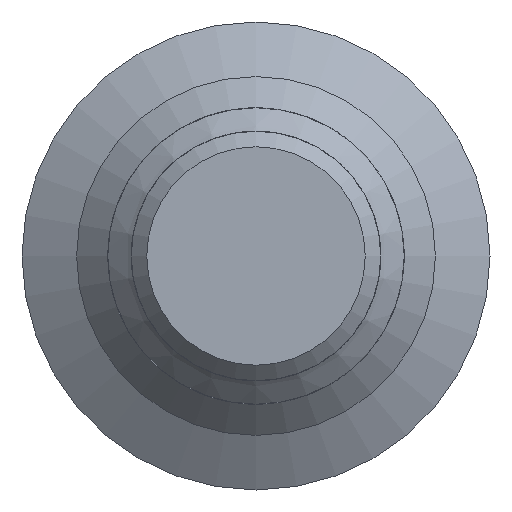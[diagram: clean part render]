
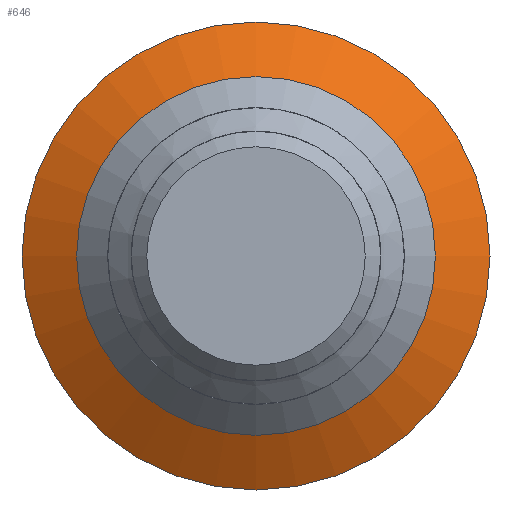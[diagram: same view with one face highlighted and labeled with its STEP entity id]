
A CAD part, front view. The second image highlights one B-rep face of the part: STEP entity #646.
In plain terms, the highlighted conical face has half-angle 60 degrees and reference radius 11.5 mm.
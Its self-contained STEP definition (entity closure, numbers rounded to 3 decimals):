
#579=CARTESIAN_POINT('',(28.85,58.9,29.73));
#580=VERTEX_POINT('',#579);
#587=CARTESIAN_POINT('',(28.85,58.9,52.73));
#588=VERTEX_POINT('',#587);
#589=CARTESIAN_POINT('',(28.85,58.9,41.23));
#590=DIRECTION('',(0.,-1.,0.));
#591=DIRECTION('',(0.,0.,-1.));
#592=AXIS2_PLACEMENT_3D('',#589,#590,#591);
#593=CIRCLE('',#592,11.5);
#594=EDGE_CURVE('',#580,#588,#593,.T.);
#606=CARTESIAN_POINT('',(28.85,58.9,41.23));
#607=DIRECTION('',(0.,1.,0.));
#608=DIRECTION('',(0.,-0.,1.));
#609=AXIS2_PLACEMENT_3D('',#606,#607,#608);
#610=CONICAL_SURFACE('',#609,11.5,60.);
#611=CARTESIAN_POINT('',(28.85,60.921,56.23));
#612=VERTEX_POINT('',#611);
#613=CARTESIAN_POINT('',(28.85,58.9,52.73));
#614=DIRECTION('',(0.,0.5,0.866));
#615=VECTOR('',#614,4.041);
#616=LINE('',#613,#615);
#617=EDGE_CURVE('',#588,#612,#616,.T.);
#618=ORIENTED_EDGE('',*,*,#617,.F.);
#619=ORIENTED_EDGE('',*,*,#594,.F.);
#620=CARTESIAN_POINT('',(28.85,58.9,41.23));
#621=DIRECTION('',(0.,-1.,0.));
#622=DIRECTION('',(0.,0.,-1.));
#623=AXIS2_PLACEMENT_3D('',#620,#621,#622);
#624=CIRCLE('',#623,11.5);
#625=EDGE_CURVE('',#588,#580,#624,.T.);
#626=ORIENTED_EDGE('',*,*,#625,.F.);
#627=ORIENTED_EDGE('',*,*,#617,.T.);
#628=CARTESIAN_POINT('',(28.85,60.921,26.23));
#629=VERTEX_POINT('',#628);
#630=CARTESIAN_POINT('',(28.85,60.921,41.23));
#631=DIRECTION('',(0.,-1.,0.));
#632=DIRECTION('',(0.,0.,-1.));
#633=AXIS2_PLACEMENT_3D('',#630,#631,#632);
#634=CIRCLE('',#633,15.);
#635=EDGE_CURVE('',#612,#629,#634,.T.);
#636=ORIENTED_EDGE('',*,*,#635,.T.);
#637=CARTESIAN_POINT('',(28.85,60.921,41.23));
#638=DIRECTION('',(0.,-1.,0.));
#639=DIRECTION('',(0.,0.,-1.));
#640=AXIS2_PLACEMENT_3D('',#637,#638,#639);
#641=CIRCLE('',#640,15.);
#642=EDGE_CURVE('',#629,#612,#641,.T.);
#643=ORIENTED_EDGE('',*,*,#642,.T.);
#644=EDGE_LOOP('',(#618,#619,#626,#627,#636,#643));
#645=FACE_BOUND('',#644,.T.);
#646=ADVANCED_FACE('',(#645),#610,.T.);
